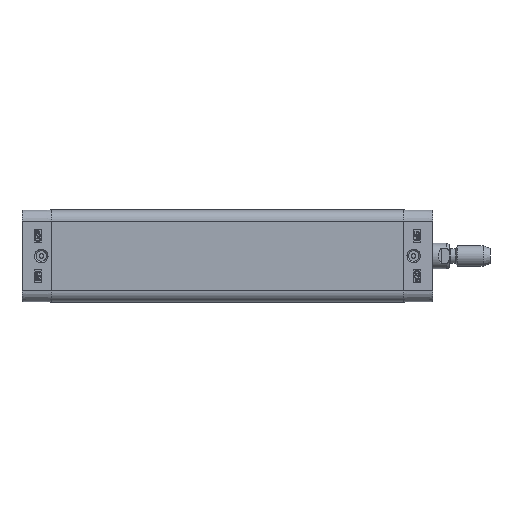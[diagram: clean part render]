
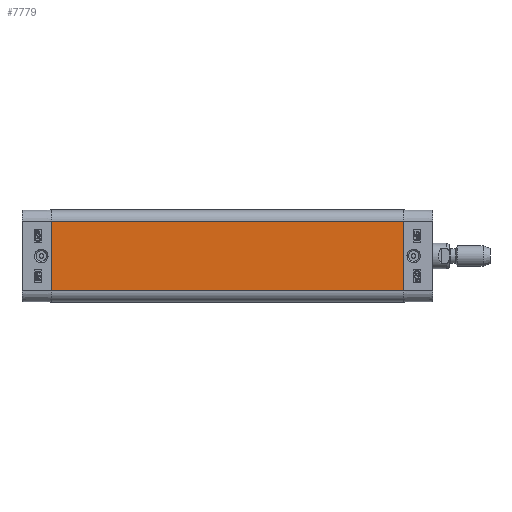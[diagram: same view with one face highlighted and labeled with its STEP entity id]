
A CAD part, left-side view. The second image highlights one B-rep face of the part: STEP entity #7779.
In plain terms, the highlighted planar face has unit normal (-1, 0, 0).
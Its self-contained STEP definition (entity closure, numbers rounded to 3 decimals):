
#6300=CARTESIAN_POINT('',(-18.15,-138.5,13.65));
#6301=VERTEX_POINT('',#6300);
#6308=CARTESIAN_POINT('',(-18.15,-138.5,-13.65));
#6309=VERTEX_POINT('',#6308);
#6310=CARTESIAN_POINT('',(-18.15,-138.5,-13.65));
#6311=DIRECTION('',(0.0,0.0,1.0));
#6312=VECTOR('',#6311,27.3);
#6313=LINE('',#6310,#6312);
#6314=EDGE_CURVE('',#6309,#6301,#6313,.T.);
#7737=CARTESIAN_POINT('',(-18.15,0.0,-13.65));
#7738=VERTEX_POINT('',#7737);
#7739=CARTESIAN_POINT('',(-18.15,0.0,-13.65));
#7740=DIRECTION('',(0.0,-1.0,0.0));
#7741=VECTOR('',#7740,138.5);
#7742=LINE('',#7739,#7741);
#7743=EDGE_CURVE('',#7738,#6309,#7742,.T.);
#7756=CARTESIAN_POINT('',(-18.15,0.0,-13.65));
#7757=DIRECTION('',(-1.0,0.0,0.0));
#7758=DIRECTION('',(0.0,0.0,1.0));
#7759=AXIS2_PLACEMENT_3D('',#7756,#7757,#7758);
#7760=PLANE('',#7759);
#7761=ORIENTED_EDGE('',*,*,#6314,.T.);
#7762=CARTESIAN_POINT('',(-18.15,0.0,13.65));
#7763=VERTEX_POINT('',#7762);
#7764=CARTESIAN_POINT('',(-18.15,0.0,13.65));
#7765=DIRECTION('',(0.0,-1.0,0.0));
#7766=VECTOR('',#7765,138.5);
#7767=LINE('',#7764,#7766);
#7768=EDGE_CURVE('',#7763,#6301,#7767,.T.);
#7769=ORIENTED_EDGE('',*,*,#7768,.F.);
#7770=CARTESIAN_POINT('',(-18.15,0.0,-13.65));
#7771=DIRECTION('',(0.0,0.0,1.0));
#7772=VECTOR('',#7771,27.3);
#7773=LINE('',#7770,#7772);
#7774=EDGE_CURVE('',#7738,#7763,#7773,.T.);
#7775=ORIENTED_EDGE('',*,*,#7774,.F.);
#7776=ORIENTED_EDGE('',*,*,#7743,.T.);
#7777=EDGE_LOOP('',(#7761,#7769,#7775,#7776));
#7778=FACE_OUTER_BOUND('',#7777,.T.);
#7779=ADVANCED_FACE('',(#7778),#7760,.T.);
